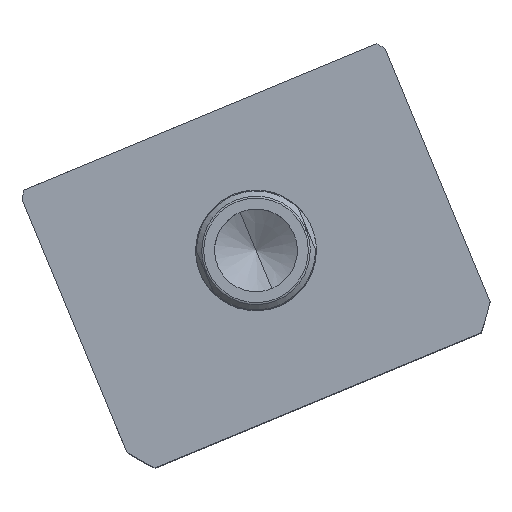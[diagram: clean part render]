
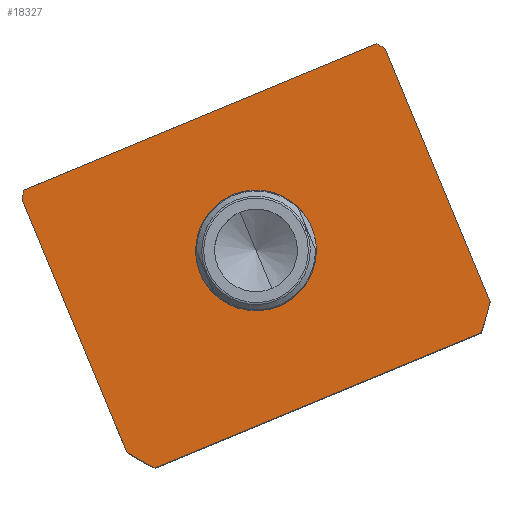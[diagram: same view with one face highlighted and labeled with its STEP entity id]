
A CAD part, top view. The second image highlights one B-rep face of the part: STEP entity #18327.
In plain terms, the highlighted planar face has unit normal (0, 0, 1) as drawn and (0, 0, -1) by its records, which use the part's own axes.
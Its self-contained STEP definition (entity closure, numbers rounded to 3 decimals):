
#257 = CARTESIAN_POINT ( 'NONE',  ( -57., -17.497, 0. ) ) ;
#282 = DIRECTION ( 'NONE',  ( 0., -1., 0. ) ) ;
#472 = EDGE_CURVE ( 'NONE', #9278, #7710, #4584, .T. ) ;
#662 = ORIENTED_EDGE ( 'NONE', *, *, #472, .F. ) ;
#949 = AXIS2_PLACEMENT_3D ( 'NONE', #7299, #17070, #8740 ) ;
#967 = EDGE_CURVE ( 'NONE', #970, #13162, #17318, .T. ) ;
#970 = VERTEX_POINT ( 'NONE', #6909 ) ;
#1015 = ORIENTED_EDGE ( 'NONE', *, *, #3720, .F. ) ;
#1016 = CARTESIAN_POINT ( 'NONE',  ( 0., -59.497, 0. ) ) ;
#1101 = DIRECTION ( 'NONE',  ( 1., 0., 0. ) ) ;
#1174 = CARTESIAN_POINT ( 'NONE',  ( -57., -106.497, 0. ) ) ;
#1206 = VECTOR ( 'NONE', #282, 1000. ) ;
#1355 = CARTESIAN_POINT ( 'NONE',  ( -57., -17.497, 0. ) ) ;
#1816 = CARTESIAN_POINT ( 'NONE',  ( -51.198, -106.497, 0. ) ) ;
#2052 = CARTESIAN_POINT ( 'NONE',  ( -17.5, -59.497, 0. ) ) ;
#2482 = DIRECTION ( 'NONE',  ( 1., 0., 0. ) ) ;
#2586 = ORIENTED_EDGE ( 'NONE', *, *, #5155, .F. ) ;
#2823 = CARTESIAN_POINT ( 'NONE',  ( 57., -19.732, 0. ) ) ;
#3423 = CARTESIAN_POINT ( 'NONE',  ( -57., -19.732, 0. ) ) ;
#3528 = EDGE_LOOP ( 'NONE', ( #1015, #12090, #14403, #14850, #18133, #662, #2586, #6404 ) ) ;
#3707 = CARTESIAN_POINT ( 'NONE',  ( 0., -59.497, 0. ) ) ;
#3720 = EDGE_CURVE ( 'NONE', #13162, #15161, #10936, .T. ) ;
#3765 = DIRECTION ( 'NONE',  ( 0., 0., 1. ) ) ;
#4362 = DIRECTION ( 'NONE',  ( 0., 0., 1. ) ) ;
#4431 = ORIENTED_EDGE ( 'NONE', *, *, #11396, .T. ) ;
#4584 = LINE ( 'NONE', #257, #1206 ) ;
#5126 = DIRECTION ( 'NONE',  ( 1., 0., 0. ) ) ;
#5155 = EDGE_CURVE ( 'NONE', #9093, #9278, #16085, .T. ) ;
#5350 = CARTESIAN_POINT ( 'NONE',  ( 55.374, -17.497, 0. ) ) ;
#5490 = VECTOR ( 'NONE', #18077, 1000. ) ;
#6273 = FACE_OUTER_BOUND ( 'NONE', #3528, .T. ) ;
#6296 = DIRECTION ( 'NONE',  ( 0., 0., 1. ) ) ;
#6404 = ORIENTED_EDGE ( 'NONE', *, *, #11779, .F. ) ;
#6509 = AXIS2_PLACEMENT_3D ( 'NONE', #14709, #6296, #16100 ) ;
#6517 = DIRECTION ( 'NONE',  ( 0., 1., 0. ) ) ;
#6540 = CIRCLE ( 'NONE', #14975, 17.5 ) ;
#6568 = VECTOR ( 'NONE', #6517, 1000. ) ;
#6632 = EDGE_LOOP ( 'NONE', ( #18045, #4431 ) ) ;
#6731 = EDGE_CURVE ( 'NONE', #7321, #14598, #9765, .T. ) ;
#6909 = CARTESIAN_POINT ( 'NONE',  ( 57., -99.262, 0. ) ) ;
#7299 = CARTESIAN_POINT ( 'NONE',  ( 0., -59.497, 0. ) ) ;
#7321 = VERTEX_POINT ( 'NONE', #1816 ) ;
#7710 = VERTEX_POINT ( 'NONE', #14885 ) ;
#7899 = CIRCLE ( 'NONE', #6509, 69.5 ) ;
#8164 = VERTEX_POINT ( 'NONE', #15837 ) ;
#8260 = CARTESIAN_POINT ( 'NONE',  ( 0., 0., 0. ) ) ;
#8740 = DIRECTION ( 'NONE',  ( 1., 0., 0. ) ) ;
#9093 = VERTEX_POINT ( 'NONE', #11660 ) ;
#9278 = VERTEX_POINT ( 'NONE', #3423 ) ;
#9475 = LINE ( 'NONE', #1355, #16393 ) ;
#9658 = FACE_BOUND ( 'NONE', #6632, .T. ) ;
#9713 = DIRECTION ( 'NONE',  ( 0., 0., 1. ) ) ;
#9765 = LINE ( 'NONE', #1174, #5490 ) ;
#10804 = CIRCLE ( 'NONE', #16742, 17.5 ) ;
#10812 = AXIS2_PLACEMENT_3D ( 'NONE', #12270, #3765, #13644 ) ;
#10894 = CIRCLE ( 'NONE', #10812, 69.5 ) ;
#10936 = CIRCLE ( 'NONE', #949, 69.5 ) ;
#11020 = EDGE_CURVE ( 'NONE', #14598, #970, #7899, .T. ) ;
#11037 = DIRECTION ( 'NONE',  ( 0., 0., 1. ) ) ;
#11160 = VERTEX_POINT ( 'NONE', #2052 ) ;
#11396 = EDGE_CURVE ( 'NONE', #11160, #8164, #6540, .T. ) ;
#11660 = CARTESIAN_POINT ( 'NONE',  ( -55.374, -17.497, 0. ) ) ;
#11779 = EDGE_CURVE ( 'NONE', #15161, #9093, #9475, .T. ) ;
#12090 = ORIENTED_EDGE ( 'NONE', *, *, #967, .F. ) ;
#12270 = CARTESIAN_POINT ( 'NONE',  ( 0., -59.497, 0. ) ) ;
#12774 = CARTESIAN_POINT ( 'NONE',  ( 57., -17.497, 0. ) ) ;
#12862 = CARTESIAN_POINT ( 'NONE',  ( 0., -59.497, 0. ) ) ;
#13162 = VERTEX_POINT ( 'NONE', #2823 ) ;
#13591 = DIRECTION ( 'NONE',  ( 0., 0., 1. ) ) ;
#13644 = DIRECTION ( 'NONE',  ( 1., 0., 0. ) ) ;
#14074 = EDGE_CURVE ( 'NONE', #8164, #11160, #10804, .T. ) ;
#14248 = DIRECTION ( 'NONE',  ( 1., 0., 0. ) ) ;
#14369 = AXIS2_PLACEMENT_3D ( 'NONE', #3707, #13591, #5126 ) ;
#14403 = ORIENTED_EDGE ( 'NONE', *, *, #11020, .F. ) ;
#14598 = VERTEX_POINT ( 'NONE', #14613 ) ;
#14613 = CARTESIAN_POINT ( 'NONE',  ( 51.198, -106.497, 0. ) ) ;
#14709 = CARTESIAN_POINT ( 'NONE',  ( 0., -59.497, 0. ) ) ;
#14850 = ORIENTED_EDGE ( 'NONE', *, *, #6731, .F. ) ;
#14885 = CARTESIAN_POINT ( 'NONE',  ( -57., -99.262, 0. ) ) ;
#14975 = AXIS2_PLACEMENT_3D ( 'NONE', #1016, #11037, #2482 ) ;
#15161 = VERTEX_POINT ( 'NONE', #5350 ) ;
#15449 = DIRECTION ( 'NONE',  ( -1., 0., 0. ) ) ;
#15837 = CARTESIAN_POINT ( 'NONE',  ( 17.5, -59.497, 0. ) ) ;
#16085 = CIRCLE ( 'NONE', #14369, 69.5 ) ;
#16100 = DIRECTION ( 'NONE',  ( 1., 0., 0. ) ) ;
#16393 = VECTOR ( 'NONE', #15449, 1000. ) ;
#16742 = AXIS2_PLACEMENT_3D ( 'NONE', #12862, #4362, #14248 ) ;
#17070 = DIRECTION ( 'NONE',  ( 0., 0., 1. ) ) ;
#17177 = EDGE_CURVE ( 'NONE', #7710, #7321, #10894, .T. ) ;
#17318 = LINE ( 'NONE', #12774, #6568 ) ;
#17692 = PLANE ( 'NONE',  #17881 ) ;
#17881 = AXIS2_PLACEMENT_3D ( 'NONE', #8260, #9713, #1101 ) ;
#18045 = ORIENTED_EDGE ( 'NONE', *, *, #14074, .T. ) ;
#18077 = DIRECTION ( 'NONE',  ( 1., 0., 0. ) ) ;
#18133 = ORIENTED_EDGE ( 'NONE', *, *, #17177, .F. ) ;
#18327 = ADVANCED_FACE ( 'NONE', ( #9658, #6273 ), #17692, .F. ) ;
